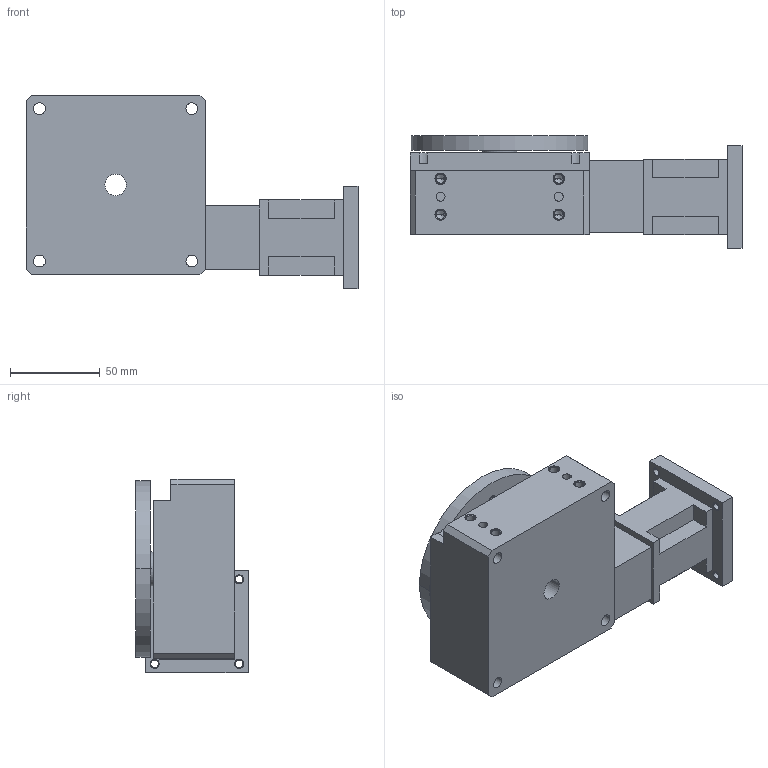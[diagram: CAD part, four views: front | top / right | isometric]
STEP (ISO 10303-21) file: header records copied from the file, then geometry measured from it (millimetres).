
FILE_DESCRIPTION((''),'2;1');
FILE_NAME('R100M6M23E0_ASM','2009-07-02T',('FK20128'),(''),'PRO/ENGINEER BY PARAMETRIC TECHNOLOGY CORPORATION, 2006200','PRO/ENGINEER BY PARAMETRIC TECHNOLOGY CORPORATION, 2006200','');
FILE_SCHEMA(('CONFIG_CONTROL_DESIGN'));
Length unit declared in the file: millimetre
Products named in the file (3): R100M; R100M-M23; R100M6M23E0_ASM
Assembly tree (2 placements, depth 2):
  R100M6M23E0_ASM
    R100M
    R100M-M23
Bounding box: 185.15 x 62.58 x 107.96 mm (x, y, z)
Volume: 593314.6 mm3; surface area: 91910.9 mm2
Topology: 2 solids, 20 shells, 231 faces, 580 edges, 386 vertices
Faces by surface type: cylinder 124, plane 85, cone 22
Entity records: 7122 total; most frequent: DIRECTION 1344, CARTESIAN_POINT 1194, ORIENTED_EDGE 1064, EDGE_CURVE 568, AXIS2_PLACEMENT_3D 536, VERTEX_POINT 386, EDGE_LOOP 310, CIRCLE 296
